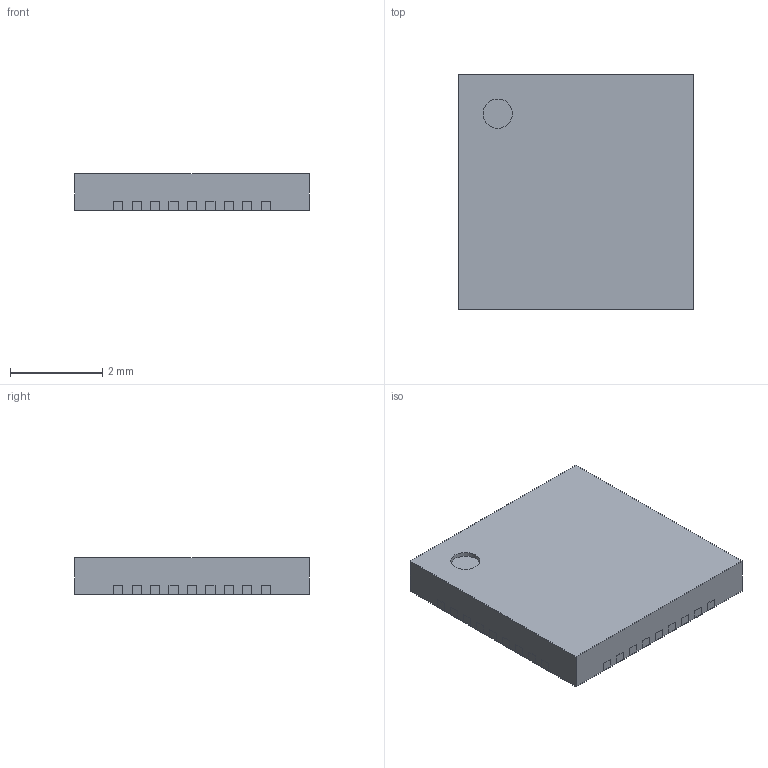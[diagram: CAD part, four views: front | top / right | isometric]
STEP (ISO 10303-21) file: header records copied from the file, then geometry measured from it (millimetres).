
FILE_DESCRIPTION(('Open CASCADE Model'),'2;1');
FILE_NAME('Open CASCADE Shape Model','2022-11-15T17:08:13',('Author'),( 'Open CASCADE'),'Open CASCADE STEP processor 6.8','Open CASCADE 6.8' ,'Unknown');
FILE_SCHEMA(('AUTOMOTIVE_DESIGN_CC2 { 1 2 10303 214 -1 1 5 4 }'));
Length unit declared in the file: millimetre
Products named in the file (7): QFN40P500X500X80_HS-37N.step; Open CASCADE STEP translator 6.8 9.1; Body; Open CASCADE STEP translator 6.8 9.2.1; Thermal_Shape; Pin_Shape; Open CASCADE STEP translator 6.8 9.4.1
Assembly tree (41 placements, depth 3):
  QFN40P500X500X80_HS-37N.step
    Open CASCADE STEP translator 6.8 9.1
    Body
      Open CASCADE STEP translator 6.8 9.2.1
    Thermal_Shape
    Pin_Shape  x36
      Open CASCADE STEP translator 6.8 9.4.1
Bounding box: 5.1 x 5.1 x 0.8 mm (x, y, z)
Volume: 20.8 mm3; surface area: 101.9 mm2
Topology: 38 solids, 39 shells, 520 faces, 1039 edges, 597 vertices
Faces by surface type: plane 519, cylinder 1
Full cylindrical faces by diameter (mm): 0.637 x1
Entity records: 1948 total; most frequent: DIRECTION 320, CARTESIAN_POINT 293, LINE 168, VECTOR 168, ORIENTED_EDGE 117, PCURVE 117, DEFINITIONAL_REPRESENTATION 117, AXIS2_PLACEMENT_3D 75
